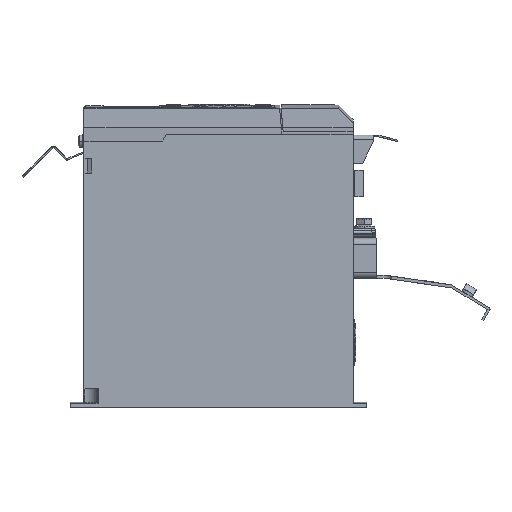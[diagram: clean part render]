
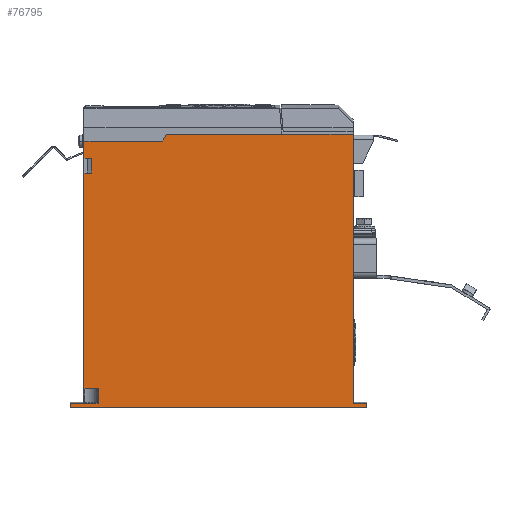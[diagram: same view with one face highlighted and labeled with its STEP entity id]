
A CAD part, left-side view. The second image highlights one B-rep face of the part: STEP entity #76795.
In plain terms, the highlighted planar face has unit normal (-1, 0, 0).
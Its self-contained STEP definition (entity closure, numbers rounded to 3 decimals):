
#5241=DIRECTION('',(0.,-1.,0.));
#5242=VECTOR('',#5241,200.);
#5243=CARTESIAN_POINT('',(-49.4,100.,-89.4));
#5244=LINE('',#5243,#5242);
#5400=DIRECTION('',(0.,1.,0.));
#5401=VECTOR('',#5400,9.25);
#5402=CARTESIAN_POINT('',(-49.4,-100.,-86.4));
#5403=LINE('',#5402,#5401);
#5454=DIRECTION('',(0.,1.,0.));
#5455=VECTOR('',#5454,18.748);
#5456=CARTESIAN_POINT('',(-49.4,81.252,-86.4));
#5457=LINE('',#5456,#5455);
#12819=DIRECTION('',(0.,0.,1.));
#12820=VECTOR('',#12819,3.);
#12821=CARTESIAN_POINT('',(-49.4,-100.,-89.4));
#12822=LINE('',#12821,#12820);
#21198=DIRECTION('',(0.,0.,1.));
#21199=VECTOR('',#21198,9.501);
#21200=CARTESIAN_POINT('',(-49.4,80.75,-85.901));
#21201=LINE('',#21200,#21199);
#21205=DIRECTION('',(0.,1.,0.));
#21206=VECTOR('',#21205,10.);
#21207=CARTESIAN_POINT('',(-49.4,80.75,-76.4));
#21208=LINE('',#21207,#21206);
#21212=DIRECTION('',(0.,0.,1.));
#21213=VECTOR('',#21212,145.4);
#21214=CARTESIAN_POINT('',(-49.4,90.75,-76.4));
#21215=LINE('',#21214,#21213);
#21219=DIRECTION('',(0.,-1.,0.));
#21220=VECTOR('',#21219,5.36);
#21221=CARTESIAN_POINT('',(-49.4,90.75,69.));
#21222=LINE('',#21221,#21220);
#21226=DIRECTION('',(0.,0.,1.));
#21227=VECTOR('',#21226,10.);
#21228=CARTESIAN_POINT('',(-49.4,85.39,69.));
#21229=LINE('',#21228,#21227);
#21233=DIRECTION('',(0.,-1.,0.));
#21234=VECTOR('',#21233,5.36);
#21235=CARTESIAN_POINT('',(-49.4,90.75,79.));
#21236=LINE('',#21235,#21234);
#21240=DIRECTION('',(0.,0.,1.));
#21241=VECTOR('',#21240,11.6);
#21242=CARTESIAN_POINT('',(-49.4,90.75,79.));
#21243=LINE('',#21242,#21241);
#21247=DIRECTION('',(0.,1.,0.));
#21248=VECTOR('',#21247,53.);
#21249=CARTESIAN_POINT('',(-49.4,37.75,90.6));
#21250=LINE('',#21249,#21248);
#21254=DIRECTION('',(0.,-0.5,0.866));
#21255=VECTOR('',#21254,5.196);
#21256=CARTESIAN_POINT('',(-49.4,37.75,90.6));
#21257=LINE('',#21256,#21255);
#21261=DIRECTION('',(0.,-1.,0.));
#21262=VECTOR('',#21261,125.902);
#21263=CARTESIAN_POINT('',(-49.4,35.152,95.1));
#21264=LINE('',#21263,#21262);
#21268=DIRECTION('',(0.,0.,-1.));
#21269=VECTOR('',#21268,181.5);
#21270=CARTESIAN_POINT('',(-49.4,-90.75,95.1));
#21271=LINE('',#21270,#21269);
#21283=CARTESIAN_POINT('',(-49.4,80.75,-85.901));
#21284=CARTESIAN_POINT('',(-49.4,80.75,-86.068));
#21285=CARTESIAN_POINT('',(-49.4,80.877,-86.274));
#21286=CARTESIAN_POINT('',(-49.4,81.085,-86.4));
#21287=CARTESIAN_POINT('',(-49.4,81.252,-86.4));
#39709=DIRECTION('',(0.,0.,1.));
#39710=VECTOR('',#39709,3.);
#39711=CARTESIAN_POINT('',(-49.4,100.,-89.4));
#39712=LINE('',#39711,#39710);
#42779=CARTESIAN_POINT('',(-49.4,-100.,-89.4));
#42780=CARTESIAN_POINT('',(-49.4,-100.,-86.4));
#42781=VERTEX_POINT('',#42779);
#42782=VERTEX_POINT('',#42780);
#42787=CARTESIAN_POINT('',(-49.4,100.,-89.4));
#42788=CARTESIAN_POINT('',(-49.4,100.,-86.4));
#42789=VERTEX_POINT('',#42787);
#42790=VERTEX_POINT('',#42788);
#42797=CARTESIAN_POINT('',(-49.4,-90.75,-86.4));
#42798=VERTEX_POINT('',#42797);
#42867=CARTESIAN_POINT('',(-49.4,80.75,-76.4));
#42868=CARTESIAN_POINT('',(-49.4,90.75,-76.4));
#42869=VERTEX_POINT('',#42867);
#42870=VERTEX_POINT('',#42868);
#43974=CARTESIAN_POINT('',(-49.4,-90.75,95.1));
#43975=VERTEX_POINT('',#43974);
#44702=CARTESIAN_POINT('',(-49.4,81.252,-86.4));
#44704=VERTEX_POINT('',#44702);
#44706=CARTESIAN_POINT('',(-49.4,80.75,-85.901));
#44708=VERTEX_POINT('',#44706);
#45257=CARTESIAN_POINT('',(-49.4,90.75,90.6));
#45259=VERTEX_POINT('',#45257);
#45261=CARTESIAN_POINT('',(-49.4,37.75,90.6));
#45262=VERTEX_POINT('',#45261);
#45263=CARTESIAN_POINT('',(-49.4,35.152,95.1));
#45264=VERTEX_POINT('',#45263);
#45436=CARTESIAN_POINT('',(-49.4,90.75,69.));
#45437=CARTESIAN_POINT('',(-49.4,85.39,69.));
#45438=VERTEX_POINT('',#45436);
#45439=VERTEX_POINT('',#45437);
#45440=CARTESIAN_POINT('',(-49.4,90.75,79.));
#45441=CARTESIAN_POINT('',(-49.4,85.39,79.));
#45442=VERTEX_POINT('',#45440);
#45443=VERTEX_POINT('',#45441);
#76762=CARTESIAN_POINT('',(-49.4,90.75,-89.4));
#76763=DIRECTION('',(-1.,0.,0.));
#76764=DIRECTION('',(0.,-1.,0.));
#76765=AXIS2_PLACEMENT_3D('',#76762,#76763,#76764);
#76766=PLANE('',#76765);
#76767=ORIENTED_EDGE('',*,*,#54350,.F.);
#76769=ORIENTED_EDGE('',*,*,#76768,.F.);
#76771=ORIENTED_EDGE('',*,*,#76770,.T.);
#76772=ORIENTED_EDGE('',*,*,#76743,.T.);
#76773=ORIENTED_EDGE('',*,*,#66211,.T.);
#76775=ORIENTED_EDGE('',*,*,#76774,.T.);
#76777=ORIENTED_EDGE('',*,*,#76776,.T.);
#76779=ORIENTED_EDGE('',*,*,#76778,.F.);
#76780=ORIENTED_EDGE('',*,*,#66203,.T.);
#76782=ORIENTED_EDGE('',*,*,#76781,.F.);
#76784=ORIENTED_EDGE('',*,*,#76783,.T.);
#76786=ORIENTED_EDGE('',*,*,#76785,.T.);
#76787=ORIENTED_EDGE('',*,*,#48174,.T.);
#76788=ORIENTED_EDGE('',*,*,#54312,.F.);
#76789=ORIENTED_EDGE('',*,*,#65692,.F.);
#76790=ORIENTED_EDGE('',*,*,#54140,.F.);
#76792=ORIENTED_EDGE('',*,*,#76791,.T.);
#76793=EDGE_LOOP('',(#76767,#76769,#76771,#76772,#76773,#76775,#76777,#76779,
#76780,#76782,#76784,#76786,#76787,#76788,#76789,#76790,#76792));
#76794=FACE_OUTER_BOUND('',#76793,.F.);
#76795=ADVANCED_FACE('',(#76794),#76766,.T.);
#21288=B_SPLINE_CURVE_WITH_KNOTS('',3,(#21283,#21284,#21285,#21286,#21287),
.UNSPECIFIED.,.F.,.F.,(4,1,4),(0.,0.5,1.),.UNSPECIFIED.);
#48174=EDGE_CURVE('',#43975,#42798,#21271,.T.);
#54140=EDGE_CURVE('',#42789,#42781,#5244,.T.);
#54312=EDGE_CURVE('',#42782,#42798,#5403,.T.);
#54350=EDGE_CURVE('',#44704,#42790,#5457,.T.);
#65692=EDGE_CURVE('',#42781,#42782,#12822,.T.);
#66203=EDGE_CURVE('',#45442,#45259,#21243,.T.);
#66211=EDGE_CURVE('',#42870,#45438,#21215,.T.);
#76743=EDGE_CURVE('',#42869,#42870,#21208,.T.);
#76768=EDGE_CURVE('',#44708,#44704,#21288,.T.);
#76770=EDGE_CURVE('',#44708,#42869,#21201,.T.);
#76774=EDGE_CURVE('',#45438,#45439,#21222,.T.);
#76776=EDGE_CURVE('',#45439,#45443,#21229,.T.);
#76778=EDGE_CURVE('',#45442,#45443,#21236,.T.);
#76781=EDGE_CURVE('',#45262,#45259,#21250,.T.);
#76783=EDGE_CURVE('',#45262,#45264,#21257,.T.);
#76785=EDGE_CURVE('',#45264,#43975,#21264,.T.);
#76791=EDGE_CURVE('',#42789,#42790,#39712,.T.);
